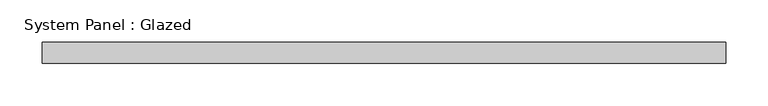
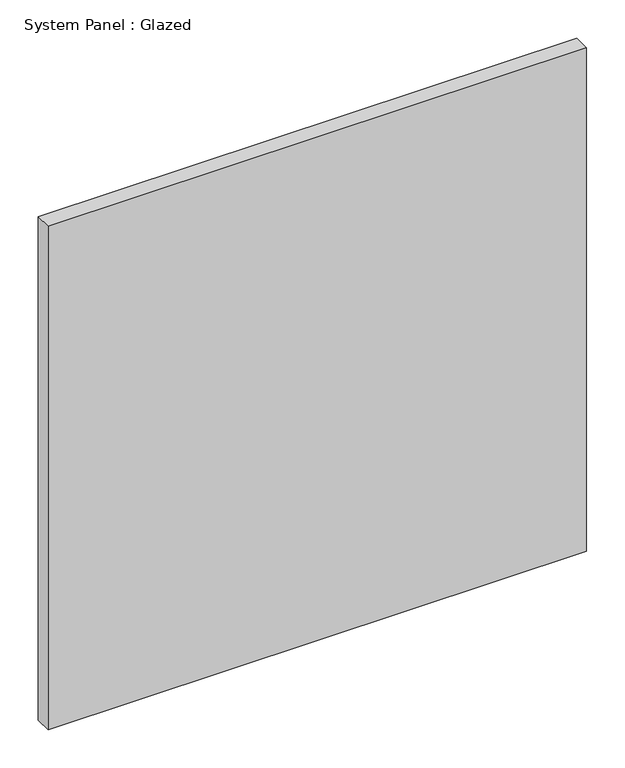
"""IFC4 building model written with IfcOpenShell, lengths in millimetres: plate geometry, System Panel : Glazed."""

from ifc_helpers import new_model, si_unit, origin, origin_with_axes, place, context, project, spatial, polyline, outline, extrude, source, transform, mapped, element, save


def system_panel_glazed_be852051(model_context):
    return source(origin(), model_context, "Body", "SweptSolid", [
        extrude(outline(polyline([(406.4, 19.05), (-406.4, 19.05), (-406.4, 44.45), (406.4, 44.45), (406.4, 19.05)])), origin_with_axes(), (0.0, 0.0, 1.0), 802.4190025),
    ])


if __name__ == "__main__":
    model = new_model("IFC4")
    model_context = context("Model", 3, world=origin())
    ifc_project = project(units=[si_unit("LENGTHUNIT", "METRE", prefix="MILLI")], contexts=[model_context])
    site = spatial("IfcSite", under=ifc_project)
    building = spatial("IfcBuilding", under=site)
    placement = place(None, origin())
    system_panel_glazed_shape = system_panel_glazed_be852051(model_context)
    element("IfcPlate", 1, ObjectType="System Panel : Glazed", at=placement, inside=building, context=model_context, shape_type="MappedRepresentation", body=[
        mapped(system_panel_glazed_shape, transform((0.0, 0.0, 0.0), x_axis=(1.0, 0.0, 0.0), y_axis=(0.0, 1.0, 0.0), z_axis=(0.0, 0.0, 1.0))),
    ])
    save(model, "model.ifc")
